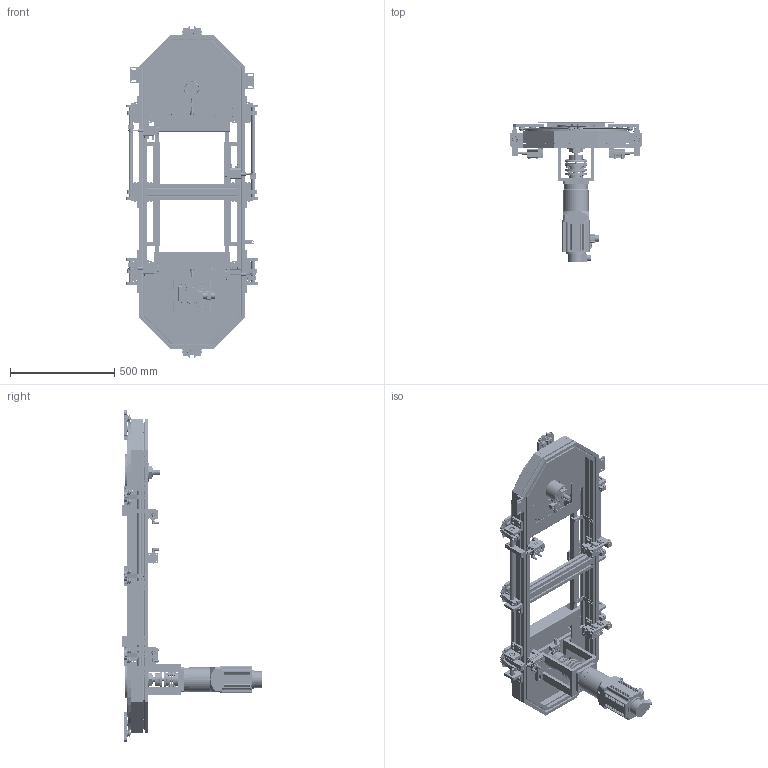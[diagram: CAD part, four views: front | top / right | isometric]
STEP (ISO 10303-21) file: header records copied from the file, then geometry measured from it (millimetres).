
FILE_DESCRIPTION (( 'STEP AP214' ), '1' );
FILE_NAME ('HSD-468邳埴倰第蟈沭.STEP', '2021-06-07T02:49:30', ( '' ), ( '' ), 'SwSTEP 2.0', 'SolidWorks 2016', '' );
FILE_SCHEMA (( 'AUTOMOTIVE_DESIGN' ));
Length unit declared in the file: millimetre
Products named in the file (63): HSD-4080倰第勤晚468; HSD-蟈沭蟀諉蜇璃; HSD-U倰鎮湛盓殤1.5KW; HSD-468邳埴倰第蟈沭; HSD-倰第邧隅弇蚾饜; HSD-覜茼羲壽盓殤; HSD-蟈沭羞; HSD-6009粣創; HSD-468蟈謫誘裔; HSD-桲踡蹟佪; HSD-苤陬隅弇蜇璃; HSD-12A蟈羞; HSD-等啊旋嫖粣; HSD-邧啊旋嫖粣; HSD-蟈沭粣創粣陑6009; HSD-倰第覜茼羲壽郪; HSD-桲踡蜇璃; HSD-隅弇郪赶桉粣創; HSD-桲踡輸; HSD-气缸_ACQ 32×20-1_ACQ 32×20-1; HSD-幗謫; HSD-苤陬蟈沭誘欶; HSD-幗謫蚳蚚菜え; HSD-随动器16_KRV 168; HSD-翋雄粣創釱-6009; HSD-ぇ陑幗謫粣; HSD-ァ詰粣創釱_BHLC6003ZZ-40-KCA; HSD-蕾宒假蚾1.5KW; HSD-ァ詰蟀諉等嫉; HSD-翋雄菁啣468; HSD-菜え; HSD-56C翋雄蟈謫_05B; hexagon socket head cap screws gb_GB_FASTENER_SCREWS_HSHCS M4X6-N; HSD-眻寢994; HSD-468倰第郪; HSD-型材角铝链槽支板; HSD-蟀諉標裝; HSD-蚐碟; HSD-倰第等隅弇蚾饜; HSD-肮陑幗謫粣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
Assembly tree (119 placements, depth 4):
  HSD-468邳埴倰第蟈沭
    HSD-468蟈沭GMP
      HSD-眻寢994  x2
      HSD-ш婥遠寢468  x2
      HSD-468蟈沭苤陬  x8
        HSD-苤陬啣-468
        HSD-苤陬隅弇蜇璃
        HSD-幗謫
        HSD-菜え
        HSD-幗謫蚳蚚菜え
        HSD-幗謫蚳蚚蹟譫
        HSD-肮陑幗謫粣
        HSD-ぇ陑幗謫粣
        HSD-蟈沭蟀諉蜇璃
        HSD-苤陬蟈沭誘欶
        HSD-肣杶
        HSD-蚐碟
    HSD-468倰第郪
      HSD-4080倰第勤晚468  x6
      HSD-4080倰第酗晚468  x2
      HSD-4080倰第笢潔蟀諉468
    HSD-翋雄菁啣468  x2
    HSD-倰第等隅弇蚾饜  x2
      HSD-ァ詰粣創釱_BHLC6003ZZ-40-KCA
      HSD-啊旋蟀諉粣
      HSD-隅弇傻啊旋
      HSD-ァ詰蟀諉邧嫉
      HSD-蟀諉標裝
      HSD-ァ詰蟀諉粣
      HSD-6003粣創
      HSD-等啊旋嫖粣
      HSD-随动器16_KRV 168
      HSD-隅弇郪赶桉粣創
      HSD-气缸_ACQ 32×20-1_ACQ 32×20-1
      HSD-ァ詰蟀諉等嫉
    HSD-L倰嘐隅璃  x2
    HSD-54C翋雄蟈謫郪  x2
      HSD-蟈謫翋雄粣6009
        HSD-翋雄粣傷裔6009
        HSD-蟈沭粣創粣陑6009
        HSD-滅侂蹟譫M42
        HSD-翋雄粣創釱-6009
        HSD-6009粣創  x2
        HSD-桲踡蹟佪
        HSD-桲踡輸
        HSD-桲踡蜇璃
      HSD-56C翋雄蟈謫_05B
    HSD-468邳埴蟈沭
    HSD-蟈沭羞  x2
      HSD-12A蟈羞
      HSD-型材角铝链槽支板
    HSD-倰第邧隅弇蚾饜  x2
      HSD-ァ詰粣創釱_BHLC6003ZZ-40-KCA
      HSD-啊旋蟀諉粣
      HSD-隅弇傻啊旋
      HSD-ァ詰蟀諉邧嫉
      HSD-蟀諉標裝
      HSD-ァ詰蟀諉粣
      HSD-6003粣創
      HSD-邧啊旋嫖粣
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Bounding box: 632 x 671.17 x 1592.8 mm (x, y, z)
Volume: 27394385.5 mm3; surface area: 7384657 mm2
Topology: 771 solids, 779 shells, 17618 faces, 43352 edges, 27305 vertices
Faces by surface type: plane 7630, cylinder 6585, bspline 1996, cone 1047, torus 360
Entity records: 177431 total; most frequent: CARTESIAN_POINT 57015, ORIENTED_EDGE 23940, DIRECTION 22095, EDGE_CURVE 11970, AXIS2_PLACEMENT_3D 8192, VERTEX_POINT 7759, LINE 5711, VECTOR 5711
